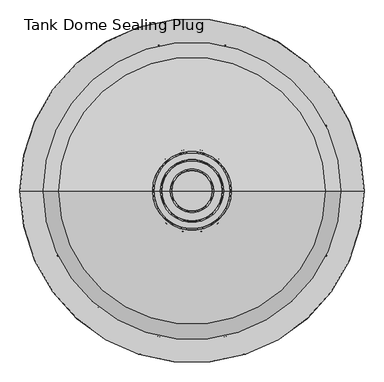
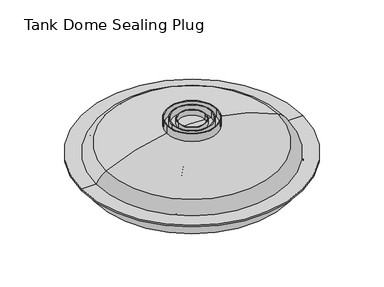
"""IFC4 building model written with IfcOpenShell, lengths in millimetres: proxy geometry, GRAF Tank Dome Sealing Plug : Tank Dome Sealing Plug."""

from ifc_helpers import new_model, si_unit, point, frame, frame_2d, origin, place, context, project, spatial, polyline, circle_curve, ellipse_curve, trimmed, segment, composite_curve, outline, extrude, source, transform, mapped, element, save
from ifc_brep_helpers import plane_surface, cylinder_surface, revolved_surface, advanced_brep


def tank_dome_sealing_plug_fa8a0619(model_context):
    return source(origin(), model_context, "Body", "SolidModel", [
        advanced_brep(
        [(-338.9176734, 0.0, 46.8927615), (338.9176734, 0.0, 46.8927615), (376.9999999, 0.0, 6.0), (-376.9999999, 0.0, 6.0), (-99.9999999, 0.0, 120.3659107), (99.9999999, 0.0, 120.3659107), (-99.8343627, 0.0, 152.0), (99.8343627, 0.0, 152.0), (-96.5430594, 0.0, 152.0), (96.5430594, 0.0, 152.0), (-95.9999999, 0.0, 120.8881408), (95.9999999, 0.0, 120.8881408), (-79.9999999, 0.0, 122.7609182), (79.9999999, 0.0, 122.7609182), (-79.8573751, 0.0, 150.0), (79.8573751, 0.0, 150.0), (-76.4682272, 0.0, 150.0), (76.4682272, 0.0, 150.0), (-75.9999999, 0.0, 123.1752784), (75.9999999, 0.0, 123.1752784), (-54.9999999, 0.0, 124.9993377), (54.9999999, 0.0, 124.9993377), (-54.8874217, 0.0, 146.5), (54.8874217, 0.0, 146.5), (-51.370395, 0.0, 146.5), (51.370395, 0.0, 146.5), (-50.9999999, 0.0, 125.2800805), (50.9999999, 0.0, 125.2800805), (0.0, 0.0, 127.0), (-55.0003781, 0.0, 117.9805869), (55.0003781, 0.0, 117.9805869), (0.0, 0.0, 120.0), (-55.1629057, 0.0, 87.8968666), (55.1629057, 0.0, 87.8968666), (-59.4752574, 0.0, 87.5336687), (59.4752574, 0.0, 87.5336687), (-59.9999999, 0.0, 117.5961477), (59.9999999, 0.0, 117.5961477), (-81.0018879, 0.0, 115.6129654), (81.0018879, 0.0, 115.6129654), (-81.5296726, 0.0, 85.376202), (81.5296726, 0.0, 85.376202), (-84.4736771, 0.0, 85.0147504), (84.4736771, 0.0, 85.0147504), (-84.9999999, 0.0, 115.1677663), (84.9999999, 0.0, 115.1677663), (-101.0023658, 0.0, 113.1678963), (101.0023658, 0.0, 113.1678963), (-101.5324671, 0.0, 82.7984116), (101.5324671, 0.0, 82.7984116), (-104.4726416, 0.0, 82.4012904), (104.4726416, 0.0, 82.4012904), (-104.9999999, 0.0, 112.6136277), (104.9999999, 0.0, 112.6136277), (-335.7836923, 0.0, 40.6335154), (335.7836923, 0.0, 40.6335154), (-371.8160826, 0.0, 0.0), (371.8160826, 0.0, 0.0), (-378.9999999, 0.0, 0.0), (378.9999999, 0.0, 0.0), (-379.6807032, 0.0, -65.0), (379.6807032, 0.0, -65.0), (-383.4327535, 0.0, -65.0), (383.4327535, 0.0, -65.0), (-383.9999999, 0.0, 0.0), (383.9999999, 0.0, 0.0), (-435.9999999, 0.0, 0.0), (435.9999999, 0.0, 0.0), (-435.4750679, 0.0, 6.0), (435.4750679, 0.0, 6.0)],
        [
            (0, 1, circle_curve(frame((0.0, 0.0, 46.8927615), z_axis=(0.0, 0.0, -1.0), x_axis=(1.0, 0.0, 0.0)), 338.9176734)),
            (1, 2, circle_curve(frame((303.1007462, 0.0, -24.6414801), z_axis=(0.0, 1.0, 0.0), x_axis=(1.0, 0.0, 0.0)), 80.0)),
            (2, 3, circle_curve(frame((0.0, 0.0, 6.0), z_axis=(0.0, 0.0, 1.0), x_axis=(1.0, 0.0, 0.0)), 376.9999999)),
            (3, 0, circle_curve(frame((-303.1007462, 0.0, -24.6414801), z_axis=(0.0, 1.0, 0.0), x_axis=(-1.0, 0.0, 0.0)), 80.0)),
            (1, 0, circle_curve(frame((0.0, 0.0, 46.8927615), z_axis=(0.0, 0.0, -1.0), x_axis=(1.0, 0.0, 0.0)), 338.9176734)),
            (3, 2, circle_curve(frame((0.0, 0.0, 6.0), z_axis=(0.0, 0.0, 1.0), x_axis=(1.0, 0.0, 0.0)), 376.9999999)),
            (4, 5, circle_curve(frame((0.0, 0.0, 120.3659107), z_axis=(0.0, 0.0, -1.0), x_axis=(1.0, 0.0, 0.0)), 99.9999999)),
            (5, 1, circle_curve(frame((-1e-07, 0.0, -630.0), z_axis=(0.0, 1.0, 0.0), x_axis=(1.0, 0.0, 0.0)), 757.0)),
            (0, 4, circle_curve(frame((1e-07, 0.0, -630.0), z_axis=(0.0, 1.0, 0.0), x_axis=(-1.0, 0.0, 0.0)), 757.0)),
            (5, 4, circle_curve(frame((0.0, 0.0, 120.3659107), z_axis=(0.0, 0.0, -1.0), x_axis=(1.0, 0.0, 0.0)), 99.9999999)),
            (6, 7, circle_curve(frame((0.0, 0.0, 152.0), z_axis=(0.0, 0.0, -1.0), x_axis=(1.0, 0.0, 0.0)), 99.8343627)),
            (7, 5),
            (4, 6),
            (7, 6, circle_curve(frame((0.0, 0.0, 152.0), z_axis=(0.0, 0.0, -1.0), x_axis=(1.0, 0.0, 0.0)), 99.8343627)),
            (8, 9, circle_curve(frame((0.0, 0.0, 152.0), z_axis=(0.0, 0.0, -1.0), x_axis=(1.0, 0.0, 0.0)), 96.5430594)),
            (9, 7),
            (6, 8),
            (9, 8, circle_curve(frame((0.0, 0.0, 152.0), z_axis=(0.0, 0.0, -1.0), x_axis=(1.0, 0.0, 0.0)), 96.5430594)),
            (10, 11, circle_curve(frame((0.0, 0.0, 120.8881408), z_axis=(0.0, 0.0, -1.0), x_axis=(1.0, 0.0, 0.0)), 95.9999999)),
            (11, 9),
            (8, 10),
            (11, 10, circle_curve(frame((0.0, 0.0, 120.8881408), z_axis=(0.0, 0.0, -1.0), x_axis=(1.0, 0.0, 0.0)), 95.9999999)),
            (12, 13, circle_curve(frame((0.0, 0.0, 122.7609182), z_axis=(0.0, 0.0, -1.0), x_axis=(1.0, 0.0, 0.0)), 79.9999999)),
            (13, 11, circle_curve(frame((-1e-07, 0.0, -630.0), z_axis=(0.0, 1.0, 0.0), x_axis=(1.0, 0.0, 0.0)), 757.0)),
            (10, 12, circle_curve(frame((1e-07, 0.0, -630.0), z_axis=(0.0, 1.0, 0.0), x_axis=(-1.0, 0.0, 0.0)), 757.0)),
            (13, 12, circle_curve(frame((0.0, 0.0, 122.7609182), z_axis=(0.0, 0.0, -1.0), x_axis=(1.0, 0.0, 0.0)), 79.9999999)),
            (14, 15, circle_curve(frame((0.0, 0.0, 150.0), z_axis=(0.0, 0.0, -1.0), x_axis=(1.0, 0.0, 0.0)), 79.8573751)),
            (15, 13),
            (12, 14),
            (15, 14, circle_curve(frame((0.0, 0.0, 150.0), z_axis=(0.0, 0.0, -1.0), x_axis=(1.0, 0.0, 0.0)), 79.8573751)),
            (16, 17, circle_curve(frame((0.0, 0.0, 150.0), z_axis=(0.0, 0.0, -1.0), x_axis=(1.0, 0.0, 0.0)), 76.4682272)),
            (17, 15),
            (14, 16),
            (17, 16, circle_curve(frame((0.0, 0.0, 150.0), z_axis=(0.0, 0.0, -1.0), x_axis=(1.0, 0.0, 0.0)), 76.4682272)),
            (18, 19, circle_curve(frame((0.0, 0.0, 123.1752784), z_axis=(0.0, 0.0, -1.0), x_axis=(1.0, 0.0, 0.0)), 75.9999999)),
            (19, 17),
            (16, 18),
            (19, 18, circle_curve(frame((0.0, 0.0, 123.1752784), z_axis=(0.0, 0.0, -1.0), x_axis=(1.0, 0.0, 0.0)), 75.9999999)),
            (20, 21, circle_curve(frame((0.0, 0.0, 124.9993377), z_axis=(0.0, 0.0, -1.0), x_axis=(1.0, 0.0, 0.0)), 54.9999999)),
            (21, 19, circle_curve(frame((-1e-07, 0.0, -630.0), z_axis=(0.0, 1.0, 0.0), x_axis=(1.0, 0.0, 0.0)), 757.0)),
            (18, 20, circle_curve(frame((1e-07, 0.0, -630.0), z_axis=(0.0, 1.0, 0.0), x_axis=(-1.0, 0.0, 0.0)), 757.0)),
            (21, 20, circle_curve(frame((0.0, 0.0, 124.9993377), z_axis=(0.0, 0.0, -1.0), x_axis=(1.0, 0.0, 0.0)), 54.9999999)),
            (22, 23, circle_curve(frame((0.0, 0.0, 146.5), z_axis=(0.0, 0.0, -1.0), x_axis=(1.0, 0.0, 0.0)), 54.8874217)),
            (23, 21),
            (20, 22),
            (23, 22, circle_curve(frame((0.0, 0.0, 146.5), z_axis=(0.0, 0.0, -1.0), x_axis=(1.0, 0.0, 0.0)), 54.8874217)),
            (24, 25, circle_curve(frame((0.0, 0.0, 146.5), z_axis=(0.0, 0.0, -1.0), x_axis=(1.0, 0.0, 0.0)), 51.370395)),
            (25, 23),
            (22, 24),
            (25, 24, circle_curve(frame((0.0, 0.0, 146.5), z_axis=(0.0, 0.0, -1.0), x_axis=(1.0, 0.0, 0.0)), 51.370395)),
            (26, 27, circle_curve(frame((0.0, 0.0, 125.2800805), z_axis=(0.0, 0.0, -1.0), x_axis=(1.0, 0.0, 0.0)), 50.9999999)),
            (27, 25),
            (24, 26),
            (27, 26, circle_curve(frame((0.0, 0.0, 125.2800805), z_axis=(0.0, 0.0, -1.0), x_axis=(1.0, 0.0, 0.0)), 50.9999999)),
            (28, 27, circle_curve(frame((-1e-07, 0.0, -630.0), z_axis=(0.0, 1.0, 0.0), x_axis=(1.0, 0.0, 0.0)), 757.0)),
            (26, 28, circle_curve(frame((1e-07, 0.0, -630.0), z_axis=(0.0, 1.0, 0.0), x_axis=(-1.0, 0.0, 0.0)), 757.0)),
            (29, 30, circle_curve(frame((0.0, 0.0, 117.9805869), z_axis=(0.0, 0.0, -1.0), x_axis=(1.0, 0.0, 0.0)), 55.0003781)),
            (30, 31, circle_curve(frame((-1e-07, 0.0, -630.0), z_axis=(0.0, -1.0, 0.0), x_axis=(1.0, 0.0, 0.0)), 750.0)),
            (31, 29, circle_curve(frame((1e-07, 0.0, -630.0), z_axis=(0.0, -1.0, 0.0), x_axis=(-1.0, 0.0, 0.0)), 750.0)),
            (30, 29, circle_curve(frame((0.0, 0.0, 117.9805869), z_axis=(0.0, 0.0, -1.0), x_axis=(1.0, 0.0, 0.0)), 55.0003781)),
            (32, 33, circle_curve(frame((0.0, 0.0, 87.8968666), z_axis=(0.0, 0.0, -1.0), x_axis=(1.0, 0.0, 0.0)), 55.1629057)),
            (33, 30),
            (29, 32),
            (33, 32, circle_curve(frame((0.0, 0.0, 87.8968666), z_axis=(0.0, 0.0, -1.0), x_axis=(1.0, 0.0, 0.0)), 55.1629057)),
            (34, 35, circle_curve(frame((0.0, 0.0, 87.5336687), z_axis=(0.0, 0.0, -1.0), x_axis=(1.0, 0.0, 0.0)), 59.4752574)),
            (35, 33),
            (32, 34),
            (35, 34, circle_curve(frame((0.0, 0.0, 87.5336687), z_axis=(0.0, 0.0, -1.0), x_axis=(1.0, 0.0, 0.0)), 59.4752574)),
            (36, 37, circle_curve(frame((0.0, 0.0, 117.5961477), z_axis=(0.0, 0.0, -1.0), x_axis=(1.0, 0.0, 0.0)), 59.9999999)),
            (37, 35),
            (34, 36),
            (37, 36, circle_curve(frame((0.0, 0.0, 117.5961477), z_axis=(0.0, 0.0, -1.0), x_axis=(1.0, 0.0, 0.0)), 59.9999999)),
            (38, 39, circle_curve(frame((0.0, 0.0, 115.6129654), z_axis=(0.0, 0.0, -1.0), x_axis=(1.0, 0.0, 0.0)), 81.0018879)),
            (39, 37, circle_curve(frame((-1e-07, 0.0, -630.0), z_axis=(0.0, -1.0, 0.0), x_axis=(1.0, 0.0, 0.0)), 750.0)),
            (36, 38, circle_curve(frame((1e-07, 0.0, -630.0), z_axis=(0.0, -1.0, 0.0), x_axis=(-1.0, 0.0, 0.0)), 750.0)),
            (39, 38, circle_curve(frame((0.0, 0.0, 115.6129654), z_axis=(0.0, 0.0, -1.0), x_axis=(1.0, 0.0, 0.0)), 81.0018879)),
            (40, 41, circle_curve(frame((0.0, 0.0, 85.376202), z_axis=(0.0, 0.0, -1.0), x_axis=(1.0, 0.0, 0.0)), 81.5296726)),
            (41, 39),
            (38, 40),
            (41, 40, circle_curve(frame((0.0, 0.0, 85.376202), z_axis=(0.0, 0.0, -1.0), x_axis=(1.0, 0.0, 0.0)), 81.5296726)),
            (42, 43, circle_curve(frame((0.0, 0.0, 85.0147504), z_axis=(0.0, 0.0, -1.0), x_axis=(1.0, 0.0, 0.0)), 84.4736771)),
            (43, 41),
            (40, 42),
            (43, 42, circle_curve(frame((0.0, 0.0, 85.0147504), z_axis=(0.0, 0.0, -1.0), x_axis=(1.0, 0.0, 0.0)), 84.4736771)),
            (44, 45, circle_curve(frame((0.0, 0.0, 115.1677663), z_axis=(0.0, 0.0, -1.0), x_axis=(1.0, 0.0, 0.0)), 84.9999999)),
            (45, 43),
            (42, 44),
            (45, 44, circle_curve(frame((0.0, 0.0, 115.1677663), z_axis=(0.0, 0.0, -1.0), x_axis=(1.0, 0.0, 0.0)), 84.9999999)),
            (46, 47, circle_curve(frame((0.0, 0.0, 113.1678963), z_axis=(0.0, 0.0, -1.0), x_axis=(1.0, 0.0, 0.0)), 101.0023658)),
            (47, 45, circle_curve(frame((-1e-07, 0.0, -630.0), z_axis=(0.0, -1.0, 0.0), x_axis=(1.0, 0.0, 0.0)), 750.0)),
            (44, 46, circle_curve(frame((1e-07, 0.0, -630.0), z_axis=(0.0, -1.0, 0.0), x_axis=(-1.0, 0.0, 0.0)), 750.0)),
            (47, 46, circle_curve(frame((0.0, 0.0, 113.1678963), z_axis=(0.0, 0.0, -1.0), x_axis=(1.0, 0.0, 0.0)), 101.0023658)),
            (48, 49, circle_curve(frame((0.0, 0.0, 82.7984116), z_axis=(0.0, 0.0, -1.0), x_axis=(1.0, 0.0, 0.0)), 101.5324671)),
            (49, 47),
            (46, 48),
            (49, 48, circle_curve(frame((0.0, 0.0, 82.7984116), z_axis=(0.0, 0.0, -1.0), x_axis=(1.0, 0.0, 0.0)), 101.5324671)),
            (50, 51, circle_curve(frame((0.0, 0.0, 82.4012904), z_axis=(0.0, 0.0, -1.0), x_axis=(1.0, 0.0, 0.0)), 104.4726416)),
            (51, 49),
            (48, 50),
            (51, 50, circle_curve(frame((0.0, 0.0, 82.4012904), z_axis=(0.0, 0.0, -1.0), x_axis=(1.0, 0.0, 0.0)), 104.4726416)),
            (52, 53, circle_curve(frame((0.0, 0.0, 112.6136277), z_axis=(0.0, 0.0, -1.0), x_axis=(1.0, 0.0, 0.0)), 104.9999999)),
            (53, 51),
            (50, 52),
            (53, 52, circle_curve(frame((0.0, 0.0, 112.6136277), z_axis=(0.0, 0.0, -1.0), x_axis=(1.0, 0.0, 0.0)), 104.9999999)),
            (54, 55, circle_curve(frame((0.0, 0.0, 40.6335154), z_axis=(0.0, 0.0, -1.0), x_axis=(1.0, 0.0, 0.0)), 335.7836923)),
            (55, 53, circle_curve(frame((-1e-07, 0.0, -630.0), z_axis=(0.0, -1.0, 0.0), x_axis=(1.0, 0.0, 0.0)), 750.0)),
            (52, 54, circle_curve(frame((1e-07, 0.0, -630.0), z_axis=(0.0, -1.0, 0.0), x_axis=(-1.0, 0.0, 0.0)), 750.0)),
            (55, 54, circle_curve(frame((0.0, 0.0, 40.6335154), z_axis=(0.0, 0.0, -1.0), x_axis=(1.0, 0.0, 0.0)), 335.7836923)),
            (56, 57, circle_curve(frame((0.0, 0.0, 0.0), z_axis=(0.0, 0.0, -1.0), x_axis=(1.0, 0.0, 0.0)), 371.8160826)),
            (57, 55, circle_curve(frame((303.1007462, 0.0, -24.6414801), z_axis=(0.0, -1.0, 0.0), x_axis=(1.0, 0.0, 0.0)), 73.0)),
            (54, 56, circle_curve(frame((-303.1007462, 0.0, -24.6414801), z_axis=(0.0, -1.0, 0.0), x_axis=(-1.0, 0.0, 0.0)), 73.0)),
            (57, 56, circle_curve(frame((0.0, 0.0, 0.0), z_axis=(0.0, 0.0, -1.0), x_axis=(1.0, 0.0, 0.0)), 371.8160826)),
            (58, 59, circle_curve(frame((0.0, 0.0, 0.0), z_axis=(0.0, 0.0, -1.0), x_axis=(1.0, 0.0, 0.0)), 378.9999999)),
            (59, 57),
            (56, 58),
            (59, 58, circle_curve(frame((0.0, 0.0, 0.0), z_axis=(0.0, 0.0, -1.0), x_axis=(1.0, 0.0, 0.0)), 378.9999999)),
            (60, 61, circle_curve(frame((0.0, 0.0, -65.0), z_axis=(0.0, 0.0, -1.0), x_axis=(1.0, 0.0, 0.0)), 379.6807032)),
            (61, 59),
            (58, 60),
            (61, 60, circle_curve(frame((0.0, 0.0, -65.0), z_axis=(0.0, 0.0, -1.0), x_axis=(1.0, 0.0, 0.0)), 379.6807032)),
            (62, 63, circle_curve(frame((0.0, 0.0, -65.0), z_axis=(0.0, 0.0, -1.0), x_axis=(1.0, 0.0, 0.0)), 383.4327535)),
            (63, 61),
            (60, 62),
            (63, 62, circle_curve(frame((0.0, 0.0, -65.0), z_axis=(0.0, 0.0, -1.0), x_axis=(1.0, 0.0, 0.0)), 383.4327535)),
            (64, 65, circle_curve(frame((0.0, 0.0, 0.0), z_axis=(0.0, 0.0, -1.0), x_axis=(1.0, 0.0, 0.0)), 383.9999999)),
            (65, 63),
            (62, 64),
            (65, 64, circle_curve(frame((0.0, 0.0, 0.0), z_axis=(0.0, 0.0, -1.0), x_axis=(1.0, 0.0, 0.0)), 383.9999999)),
            (66, 67, circle_curve(frame((0.0, 0.0, 0.0), z_axis=(0.0, 0.0, -1.0), x_axis=(1.0, 0.0, 0.0)), 435.9999999)),
            (67, 65),
            (64, 66),
            (67, 66, circle_curve(frame((0.0, 0.0, 0.0), z_axis=(0.0, 0.0, -1.0), x_axis=(1.0, 0.0, 0.0)), 435.9999999)),
            (68, 69, circle_curve(frame((0.0, 0.0, 6.0), z_axis=(0.0, 0.0, -1.0), x_axis=(1.0, 0.0, 0.0)), 435.4750679)),
            (69, 67),
            (66, 68),
            (69, 68, circle_curve(frame((0.0, 0.0, 6.0), z_axis=(0.0, 0.0, -1.0), x_axis=(1.0, 0.0, 0.0)), 435.4750679)),
            (2, 69),
            (68, 3),
        ],
        [
            revolved_surface(trimmed(ellipse_curve(frame((303.1007462, 0.0, -24.6414801), z_axis=(0.0, -1.0, 0.0), x_axis=(1.0, 0.0, 0.0)), 80.0, 80.0), [point((376.9999999, 0.0, 6.0))], [point((338.9176734, 0.0, 46.8927615))], True, "CARTESIAN"), (0.0, 0.0, 484.2490449), (0.0, 0.0, 1.0)),
            revolved_surface(trimmed(ellipse_curve(frame((-1e-07, 0.0, -630.0), z_axis=(0.0, -1.0, 0.0), x_axis=(1.0, 0.0, 0.0)), 757.0, 757.0), [point((338.9176734, 0.0, 46.8927615))], [point((99.9999999, 0.0, 120.3659107))], True, "CARTESIAN"), (0.0, 0.0, 484.2490449), (0.0, 0.0, 1.0)),
            revolved_surface(polyline([(99.9999999, 0.0, 120.3659107), (99.8343627, 0.0, 152.0)]), (0.0, 0.0, 484.2490449), (0.0, 0.0, 1.0)),
            plane_surface(frame((0.0, 0.0, 152.0), z_axis=(0.0, 0.0, 1.0), x_axis=(1.0, 0.0, 0.0))),
            revolved_surface(polyline([(96.5430594, 0.0, 152.0), (95.9999999, 0.0, 120.8881408)]), (0.0, 0.0, 484.2490449), (0.0, 0.0, 1.0)),
            revolved_surface(trimmed(ellipse_curve(frame((-1e-07, 0.0, -630.0), z_axis=(0.0, -1.0, 0.0), x_axis=(1.0, 0.0, 0.0)), 757.0, 757.0), [point((95.9999999, 0.0, 120.8881408))], [point((79.9999999, 0.0, 122.7609182))], True, "CARTESIAN"), (0.0, 0.0, 484.2490449), (0.0, 0.0, 1.0)),
            revolved_surface(polyline([(79.9999999, 0.0, 122.7609182), (79.8573751, 0.0, 150.0)]), (0.0, 0.0, 484.2490449), (0.0, 0.0, 1.0)),
            plane_surface(frame((0.0, 0.0, 150.0), z_axis=(0.0, 0.0, 1.0), x_axis=(1.0, 0.0, 0.0))),
            revolved_surface(polyline([(76.4682272, 0.0, 150.0), (75.9999999, 0.0, 123.1752784)]), (0.0, 0.0, 484.2490449), (0.0, 0.0, 1.0)),
            revolved_surface(trimmed(ellipse_curve(frame((-1e-07, 0.0, -630.0), z_axis=(0.0, -1.0, 0.0), x_axis=(1.0, 0.0, 0.0)), 757.0, 757.0), [point((75.9999999, 0.0, 123.1752784))], [point((54.9999999, 0.0, 124.9993377))], True, "CARTESIAN"), (0.0, 0.0, 484.2490449), (0.0, 0.0, 1.0)),
            revolved_surface(polyline([(54.9999999, 0.0, 124.9993377), (54.8874217, 0.0, 146.5)]), (0.0, 0.0, 484.2490449), (0.0, 0.0, 1.0)),
            plane_surface(frame((0.0, 0.0, 146.5), z_axis=(0.0, 0.0, 1.0), x_axis=(1.0, 0.0, 0.0))),
            revolved_surface(polyline([(51.370395, 0.0, 146.5), (50.9999999, 0.0, 125.2800805)]), (0.0, 0.0, 484.2490449), (0.0, 0.0, 1.0)),
            revolved_surface(trimmed(ellipse_curve(frame((-1e-07, 0.0, -630.0), z_axis=(0.0, -1.0, 0.0), x_axis=(1.0, 0.0, 0.0)), 757.0, 757.0), [point((50.9999999, 0.0, 125.2800805))], [point((0.0, 0.0, 127.0))], True, "CARTESIAN"), (0.0, 0.0, 484.2490449), (0.0, 0.0, 1.0)),
            revolved_surface(trimmed(ellipse_curve(frame((-1e-07, 0.0, -630.0), z_axis=(0.0, 1.0, 0.0), x_axis=(1.0, 0.0, 0.0)), 750.0, 750.0), [point((0.0, 0.0, 120.0))], [point((55.0003781, 0.0, 117.9805869))], True, "CARTESIAN"), (0.0, 0.0, 484.2490449), (0.0, 0.0, 1.0)),
            revolved_surface(polyline([(55.0003781, 0.0, 117.9805869), (55.1629057, 0.0, 87.8968666)]), (0.0, 0.0, 484.2490449), (0.0, 0.0, 1.0)),
            revolved_surface(polyline([(55.1629057, 0.0, 87.8968666), (59.4752574, 0.0, 87.5336687)]), (0.0, 0.0, 484.2490449), (0.0, 0.0, 1.0)),
            revolved_surface(polyline([(59.4752574, 0.0, 87.5336687), (59.9999999, 0.0, 117.5961477)]), (0.0, 0.0, 484.2490449), (0.0, 0.0, 1.0)),
            revolved_surface(trimmed(ellipse_curve(frame((-1e-07, 0.0, -630.0), z_axis=(0.0, 1.0, 0.0), x_axis=(1.0, 0.0, 0.0)), 750.0, 750.0), [point((59.9999999, 0.0, 117.5961477))], [point((81.0018879, 0.0, 115.6129654))], True, "CARTESIAN"), (0.0, 0.0, 484.2490449), (0.0, 0.0, 1.0)),
            revolved_surface(polyline([(81.0018879, 0.0, 115.6129654), (81.5296726, 0.0, 85.376202)]), (0.0, 0.0, 484.2490449), (0.0, 0.0, 1.0)),
            revolved_surface(polyline([(81.5296726, 0.0, 85.376202), (84.4736771, 0.0, 85.0147504)]), (0.0, 0.0, 484.2490449), (0.0, 0.0, 1.0)),
            revolved_surface(polyline([(84.4736771, 0.0, 85.0147504), (84.9999999, 0.0, 115.1677663)]), (0.0, 0.0, 484.2490449), (0.0, 0.0, 1.0)),
            revolved_surface(trimmed(ellipse_curve(frame((-1e-07, 0.0, -630.0), z_axis=(0.0, 1.0, 0.0), x_axis=(1.0, 0.0, 0.0)), 750.0, 750.0), [point((84.9999999, 0.0, 115.1677663))], [point((101.0023658, 0.0, 113.1678963))], True, "CARTESIAN"), (0.0, 0.0, 484.2490449), (0.0, 0.0, 1.0)),
            revolved_surface(polyline([(101.0023658, 0.0, 113.1678963), (101.5324671, 0.0, 82.7984116)]), (0.0, 0.0, 484.2490449), (0.0, 0.0, 1.0)),
            revolved_surface(polyline([(101.5324671, 0.0, 82.7984116), (104.4726416, 0.0, 82.4012904)]), (0.0, 0.0, 484.2490449), (0.0, 0.0, 1.0)),
            revolved_surface(polyline([(104.4726416, 0.0, 82.4012904), (104.9999999, 0.0, 112.6136277)]), (0.0, 0.0, 484.2490449), (0.0, 0.0, 1.0)),
            revolved_surface(trimmed(ellipse_curve(frame((-1e-07, 0.0, -630.0), z_axis=(0.0, 1.0, 0.0), x_axis=(1.0, 0.0, 0.0)), 750.0, 750.0), [point((104.9999999, 0.0, 112.6136277))], [point((335.7836923, 0.0, 40.6335154))], True, "CARTESIAN"), (0.0, 0.0, 484.2490449), (0.0, 0.0, 1.0)),
            revolved_surface(trimmed(ellipse_curve(frame((303.1007462, 0.0, -24.6414801), z_axis=(0.0, 1.0, 0.0), x_axis=(1.0, 0.0, 0.0)), 73.0, 73.0), [point((335.7836923, 0.0, 40.6335154))], [point((371.8160826, 0.0, 0.0))], True, "CARTESIAN"), (0.0, 0.0, 484.2490449), (0.0, 0.0, 1.0)),
            plane_surface(frame((0.0, 0.0, 0.0), z_axis=(0.0, 0.0, -1.0), x_axis=(1.0, 0.0, 0.0))),
            revolved_surface(polyline([(378.9999999, 0.0, 0.0), (379.6807032, 0.0, -65.0)]), (0.0, 0.0, 484.2490449), (0.0, 0.0, 1.0)),
            plane_surface(frame((0.0, 0.0, -65.0), z_axis=(0.0, 0.0, -1.0), x_axis=(1.0, 0.0, 0.0))),
            revolved_surface(polyline([(383.4327535, 0.0, -65.0), (383.9999999, 0.0, 0.0)]), (0.0, 0.0, 484.2490449), (0.0, 0.0, 1.0)),
            revolved_surface(polyline([(435.9999999, 0.0, 0.0), (435.4750679, 0.0, 6.0)]), (0.0, 0.0, 484.2490449), (0.0, 0.0, 1.0)),
            plane_surface(frame((0.0, 0.0, 6.0), z_axis=(0.0, 0.0, 1.0), x_axis=(1.0, 0.0, 0.0))),
        ],
        [
            (0, [[1, 2, 3, 4]]),
            (0, [[5, -4, 6, -2]]),
            (1, [[7, 8, -1, 9]]),
            (1, [[10, -9, -5, -8]]),
            (2, [[11, 12, -7, 13]]),
            (2, [[14, -13, -10, -12]]),
            (3, [[15, 16, -11, 17]]),
            (3, [[18, -17, -14, -16]]),
            (4, [[19, 20, -15, 21]]),
            (4, [[22, -21, -18, -20]]),
            (5, [[23, 24, -19, 25]]),
            (5, [[26, -25, -22, -24]]),
            (6, [[27, 28, -23, 29]]),
            (6, [[30, -29, -26, -28]]),
            (7, [[31, 32, -27, 33]]),
            (7, [[34, -33, -30, -32]]),
            (8, [[35, 36, -31, 37]]),
            (8, [[38, -37, -34, -36]]),
            (9, [[39, 40, -35, 41]]),
            (9, [[42, -41, -38, -40]]),
            (10, [[43, 44, -39, 45]]),
            (10, [[46, -45, -42, -44]]),
            (11, [[47, 48, -43, 49]]),
            (11, [[50, -49, -46, -48]]),
            (12, [[51, 52, -47, 53]]),
            (12, [[54, -53, -50, -52]]),
            (13, [[55, -51, 56]]),
            (13, [[-56, -54, -55]]),
            (14, [[57, 58, 59]]),
            (14, [[60, -59, -58]]),
            (15, [[61, 62, -57, 63]]),
            (15, [[64, -63, -60, -62]]),
            (16, [[65, 66, -61, 67]]),
            (16, [[68, -67, -64, -66]]),
            (17, [[69, 70, -65, 71]]),
            (17, [[72, -71, -68, -70]]),
            (18, [[73, 74, -69, 75]]),
            (18, [[76, -75, -72, -74]]),
            (19, [[77, 78, -73, 79]]),
            (19, [[80, -79, -76, -78]]),
            (20, [[81, 82, -77, 83]]),
            (20, [[84, -83, -80, -82]]),
            (21, [[85, 86, -81, 87]]),
            (21, [[88, -87, -84, -86]]),
            (22, [[89, 90, -85, 91]]),
            (22, [[92, -91, -88, -90]]),
            (23, [[93, 94, -89, 95]]),
            (23, [[96, -95, -92, -94]]),
            (24, [[97, 98, -93, 99]]),
            (24, [[100, -99, -96, -98]]),
            (25, [[101, 102, -97, 103]]),
            (25, [[104, -103, -100, -102]]),
            (26, [[105, 106, -101, 107]]),
            (26, [[108, -107, -104, -106]]),
            (27, [[109, 110, -105, 111]]),
            (27, [[112, -111, -108, -110]]),
            (28, [[113, 114, -109, 115]]),
            (28, [[116, -115, -112, -114]]),
            (29, [[117, 118, -113, 119]]),
            (29, [[120, -119, -116, -118]]),
            (30, [[121, 122, -117, 123]]),
            (30, [[124, -123, -120, -122]]),
            (31, [[125, 126, -121, 127]]),
            (31, [[128, -127, -124, -126]]),
            (28, [[129, 130, -125, 131]]),
            (28, [[132, -131, -128, -130]]),
            (32, [[133, 134, -129, 135]]),
            (32, [[136, -135, -132, -134]]),
            (33, [[-3, 137, -133, 138]]),
            (33, [[-6, -138, -136, -137]]),
        ],
    ),
        extrude(outline(composite_curve([segment(trimmed(circle_curve(frame_2d((45.7832264, -54.4917563)), 54.4917565), [point((45.7832264, 1e-07))], [point((-3.359212, -30.946645))], True, "CARTESIAN"), True, "CONTINUOUS"), segment(polyline([(-3.359212, -30.946645), (-24.2143634, -74.4747039)]), True, "CONTINUOUS"), segment(trimmed(circle_curve(frame_2d((625.1050555, -385.5764431)), 720.0), [point((-24.2143634, -74.4747039))], [point((-86.1420694, -273.6500063))], True, "CARTESIAN"), True, "CONTINUOUS"), segment(polyline([(-86.1420694, -273.6500063), (-116.3683168, -272.8057108)]), True, "CONTINUOUS"), segment(trimmed(circle_curve(frame_2d((625.1050555, -385.5764432)), 750.0), [point((-116.3683168, -272.8057108))], [point((-41.9754342, -42.7884326))], False, "CARTESIAN"), True, "CONTINUOUS"), segment(trimmed(circle_curve(frame_2d((22.9537335, -76.1531323)), 73.0), [point((-41.9754342, -42.7884326))], [point((-0.9668234, -7.1835234))], False, "CARTESIAN"), True, "CONTINUOUS"), segment(polyline([(-0.9668234, -7.1835234), (-0.891595, 0.0), (45.7832264, 1e-07)]), True, "CONTINUOUS")], self_intersect=False)), frame((342.5606539, -162.1937257, -0.870452), z_axis=(-0.4338837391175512, -0.9009688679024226, 0.0), x_axis=(0.009434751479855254, -0.004543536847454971, -0.9999451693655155)), (0.0, 0.0, 1.0), 5.0),
        advanced_brep(
        [(234.653028, -298.2552789, -46.6511681), (234.3482857, -297.8731442, 0.0210941), (229.8691865, -292.2565315, 0.0210941), (207.4033586, -264.0852743, 40.6546094), (63.51208, -83.651318, 112.6347217), (63.1830479, -83.2387248, 82.4012904), (187.7643378, -239.4587211, 22.5627007), (215.0383149, -273.6592067, 2.1645092), (238.5621854, -295.1378299, -46.6511681), (218.9474723, -270.5417577, 2.1645092), (191.6734952, -236.3412721, 22.5627007), (67.0922053, -80.1212758, 82.4012904), (67.4212374, -80.5338689, 112.6347217), (211.312516, -260.9678253, 40.6546094), (233.778344, -289.1390824, 0.0210941), (238.2574431, -294.7556951, 0.0210941)],
        [
            (0, 1),
            (1, 2),
            (2, 3, circle_curve(frame((187.0258751, -238.5327181, -24.6203861), z_axis=(-0.7818314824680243, -0.6234898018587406, 0.0), x_axis=(0.6234898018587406, -0.7818314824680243, 0.0)), 73.0)),
            (3, 4, circle_curve(frame((-1.9543492, -1.5590123, -629.9789059), z_axis=(-0.7818314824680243, -0.6234898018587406, 0.0), x_axis=(0.6234898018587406, -0.7818314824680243, 0.0)), 750.0)),
            (4, 5),
            (5, 6, circle_curve(frame((-1.9543491, -1.5590124, -629.9789059), z_axis=(0.7818314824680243, 0.6234898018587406, 0.0), x_axis=(-0.6234898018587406, 0.7818314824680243, 0.0)), 720.0)),
            (6, 7),
            (7, 0, circle_curve(frame((200.6798365, -255.6542442, -47.221794), z_axis=(0.7818314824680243, 0.6234898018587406, 0.0), x_axis=(-0.6234898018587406, 0.7818314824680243, 0.0)), 54.4917565)),
            (8, 9, circle_curve(frame((204.5889939, -252.5367952, -47.221794), z_axis=(-0.7818314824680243, -0.6234898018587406, 0.0), x_axis=(-0.6234898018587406, 0.7818314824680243, 0.0)), 54.4917565)),
            (9, 10),
            (10, 11, circle_curve(frame((1.9548083, 1.5584366, -629.9789059), z_axis=(-0.7818314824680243, -0.6234898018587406, 0.0), x_axis=(-0.6234898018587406, 0.7818314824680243, 0.0)), 720.0)),
            (11, 12),
            (12, 13, circle_curve(frame((1.9548082, 1.5584367, -629.9789059), z_axis=(0.7818314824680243, 0.6234898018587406, 0.0), x_axis=(0.6234898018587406, -0.7818314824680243, 0.0)), 750.0)),
            (13, 14, circle_curve(frame((190.9350325, -235.4152691, -24.6203861), z_axis=(0.7818314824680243, 0.6234898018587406, 0.0), x_axis=(0.6234898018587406, -0.7818314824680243, 0.0)), 73.0)),
            (14, 15),
            (15, 8),
            (7, 9),
            (8, 0),
            (6, 10),
            (5, 11),
            (4, 12),
            (3, 13),
            (2, 14),
            (1, 15),
        ],
        [
            plane_surface(frame((234.354107, -297.8804438, -0.870452), z_axis=(-0.7818314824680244, -0.6234898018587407, 0.0), x_axis=(-0.006529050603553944, 0.008187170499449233, 0.9999451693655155))),
            plane_surface(frame((238.2632644, -294.7629948, -0.870452), z_axis=(0.7818314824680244, 0.6234898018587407, 0.0), x_axis=(0.006529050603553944, -0.008187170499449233, -0.9999451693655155))),
            revolved_surface(polyline([(170.61393943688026, -209.9334244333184, -47.221794), (166.7047819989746, -213.05087346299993, -47.221794)]), (204.5889939, -252.5367952, -47.221794), (0.7818314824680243, 0.6234898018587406, 0.0)),
            plane_surface(frame((187.7643378, -239.4587211, 22.5627007), z_axis=(-0.2634981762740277, 0.33041626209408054, -0.9063077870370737), x_axis=(0.7818314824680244, 0.6234898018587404, 0.0))),
            revolved_surface(polyline([(-446.9578490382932, 564.4771039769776, -629.9789059), (-450.867006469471, 561.3596549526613, -629.9789059)]), (1.9548083, 1.5584366, -629.9789059), (0.7818314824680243, 0.6234898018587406, 0.0)),
            plane_surface(frame((63.51208, -83.651318, 112.6347217), z_axis=(-0.6233948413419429, 0.7817124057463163, 0.01745240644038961), x_axis=(0.7818314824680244, 0.6234898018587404, 0.0))),
            cylinder_surface(frame((1.9548082, 1.5584367, -629.9789059), z_axis=(-0.7818314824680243, -0.6234898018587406, 0.0), x_axis=(0.6234898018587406, -0.7818314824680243, 0.0)), 750.0),
            cylinder_surface(frame((190.9350325, -235.4152691, -24.6203861), z_axis=(-0.7818314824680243, -0.6234898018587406, 0.0), x_axis=(0.6234898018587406, -0.7818314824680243, 0.0)), 73.0),
            plane_surface(frame((234.3482857, -297.8731442, 0.0210941), z_axis=(0.0, 0.0, 1.0), x_axis=(0.7818314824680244, 0.6234898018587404, 0.0))),
            plane_surface(frame((234.653028, -298.2552789, -46.6511681), z_axis=(0.6234556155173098, -0.7817886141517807, 0.010471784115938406), x_axis=(0.7818314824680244, 0.6234898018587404, 0.0))),
        ],
        [
            (0, [[1, 2, 3, 4, 5, 6, 7, 8]]),
            (1, [[9, 10, 11, 12, 13, 14, 15, 16]]),
            (2, [[-8, 17, -9, 18]]),
            (3, [[-7, 19, -10, -17]]),
            (4, [[-6, 20, -11, -19]]),
            (5, [[-5, 21, -12, -20]]),
            (6, [[-4, 22, -13, -21]]),
            (7, [[-3, 23, -14, -22]]),
            (8, [[-2, 24, -15, -23]]),
            (9, [[-1, -18, -16, -24]]),
        ],
    ),
        extrude(outline(composite_curve([segment(trimmed(circle_curve(frame_2d((45.7832264, -54.4917564)), 54.4917565), [point((45.7832264, 1e-07))], [point((-3.359212, -30.946645))], True, "CARTESIAN"), True, "CONTINUOUS"), segment(polyline([(-3.359212, -30.946645), (-24.2143634, -74.474704)]), True, "CONTINUOUS"), segment(trimmed(circle_curve(frame_2d((625.1050555, -385.5764432)), 720.0), [point((-24.2143634, -74.474704))], [point((-86.1420694, -273.6500064))], True, "CARTESIAN"), True, "CONTINUOUS"), segment(polyline([(-86.1420694, -273.6500064), (-116.3683168, -272.8057108)]), True, "CONTINUOUS"), segment(trimmed(circle_curve(frame_2d((625.1050555, -385.5764432)), 750.0), [point((-116.3683168, -272.8057108))], [point((-41.9754342, -42.7884327))], False, "CARTESIAN"), True, "CONTINUOUS"), segment(trimmed(circle_curve(frame_2d((22.9537335, -76.1531324)), 73.0), [point((-41.9754342, -42.7884327))], [point((-0.9668234, -7.1835234))], False, "CARTESIAN"), True, "CONTINUOUS"), segment(polyline([(-0.9668234, -7.1835234), (-0.891595, 0.0), (45.7832264, 1e-07)]), True, "CONTINUOUS")], self_intersect=False)), frame((86.7749132, -368.9508378, -0.870452), z_axis=(-0.9749279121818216, -0.22252093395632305, 0.0), x_axis=(0.0023301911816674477, -0.010209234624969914, -0.9999451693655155)), (0.0, 0.0, 1.0), 5.0),
        extrude(outline(composite_curve([segment(trimmed(circle_curve(frame_2d((45.7832264, -54.4917563)), 54.4917565), [point((45.7832264, 1e-07))], [point((-3.359212, -30.946645))], True, "CARTESIAN"), True, "CONTINUOUS"), segment(polyline([(-3.359212, -30.946645), (-24.2143634, -74.4747039)]), True, "CONTINUOUS"), segment(trimmed(circle_curve(frame_2d((625.1050555, -385.5764431)), 720.0), [point((-24.2143634, -74.4747039))], [point((-86.1420694, -273.6500063))], True, "CARTESIAN"), True, "CONTINUOUS"), segment(polyline([(-86.1420694, -273.6500063), (-116.3683168, -272.8057108)]), True, "CONTINUOUS"), segment(trimmed(circle_curve(frame_2d((625.1050555, -385.5764432)), 750.0), [point((-116.3683168, -272.8057108))], [point((-41.9754342, -42.7884326))], False, "CARTESIAN"), True, "CONTINUOUS"), segment(trimmed(circle_curve(frame_2d((22.9537335, -76.1531323)), 73.0), [point((-41.9754342, -42.7884326))], [point((-0.9668234, -7.1835234))], False, "CARTESIAN"), True, "CONTINUOUS"), segment(polyline([(-0.9668234, -7.1835234), (-0.891595, 0.0), (45.7832264, 1e-07)]), True, "CONTINUOUS")], self_intersect=False)), frame((-81.9002737, -370.0634424, -0.870452), z_axis=(-0.9749279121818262, 0.2225209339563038, 0.0), x_axis=(-0.0023301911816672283, -0.010209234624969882, -0.9999451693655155)), (0.0, 0.0, 1.0), 5.0),
        extrude(outline(composite_curve([segment(trimmed(circle_curve(frame_2d((45.7832264, -54.4917564)), 54.4917565), [point((45.7832264, 0.0))], [point((-3.359212, -30.946645))], True, "CARTESIAN"), True, "CONTINUOUS"), segment(polyline([(-3.359212, -30.946645), (-24.2143634, -74.4747039)]), True, "CONTINUOUS"), segment(trimmed(circle_curve(frame_2d((625.1050555, -385.5764431)), 720.0), [point((-24.2143634, -74.4747039))], [point((-86.1420694, -273.6500063))], True, "CARTESIAN"), True, "CONTINUOUS"), segment(polyline([(-86.1420694, -273.6500063), (-116.3683168, -272.8057108)]), True, "CONTINUOUS"), segment(trimmed(circle_curve(frame_2d((625.1050555, -385.5764432)), 750.0), [point((-116.3683168, -272.8057108))], [point((-41.9754342, -42.7884327))], False, "CARTESIAN"), True, "CONTINUOUS"), segment(trimmed(circle_curve(frame_2d((22.9537335, -76.1531324)), 73.0), [point((-41.9754342, -42.7884327))], [point((-0.9668234, -7.1835234))], False, "CARTESIAN"), True, "CONTINUOUS"), segment(polyline([(-0.9668234, -7.1835234), (-0.891595, 0.0), (45.7832264, 0.0)]), True, "CONTINUOUS")], self_intersect=False)), frame((-234.354107, -297.8804438, -0.870452), z_axis=(-0.7818314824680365, 0.6234898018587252, 0.0), x_axis=(-0.006529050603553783, -0.008187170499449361, -0.9999451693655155)), (0.0, 0.0, 1.0), 5.0),
        advanced_brep(
        [(-342.9926073, -162.4017434, -46.6511681), (-342.5522419, -162.1896747, 0.0210941), (-336.0797561, -159.0726898, 0.0210941), (-303.6156942, -143.4388215, 40.6546094), (-95.6867721, -43.3055302, 112.6347217), (-95.211307, -43.0765582, 82.4012904), (-275.2364868, -129.7721156, 22.5627007), (-314.6485257, -148.7519531, 2.1645092), (-340.8231887, -166.9065878, -46.6511681), (-312.479107, -153.2567975, 2.1645092), (-273.0670681, -134.2769599, 22.5627007), (-93.0418883, -47.5814025, 82.4012904), (-93.5173534, -47.8103745, 112.6347217), (-301.4462755, -147.9436659, 40.6546094), (-333.9103374, -163.5775341, 0.0210941), (-340.3828232, -166.694519, 0.0210941)],
        [
            (0, 1),
            (1, 2),
            (2, 3, circle_curve(frame((-274.1693773, -129.2582227, -24.6203861), z_axis=(-0.4338837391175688, 0.900968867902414, 0.0), x_axis=(-0.900968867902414, -0.4338837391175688, 0.0)), 73.0)),
            (3, 4, circle_curve(frame((-1.085041, 2.2522625, -629.9789059), z_axis=(-0.4338837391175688, 0.900968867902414, 0.0), x_axis=(-0.900968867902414, -0.4338837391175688, 0.0)), 750.0)),
            (4, 5),
            (5, 6, circle_curve(frame((-1.0850411, 2.2522624, -629.9789059), z_axis=(0.4338837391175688, -0.900968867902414, 0.0), x_axis=(0.900968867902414, 0.4338837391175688, 0.0)), 720.0)),
            (6, 7),
            (7, 0, circle_curve(frame((-293.8999232, -138.7599528, -47.221794), z_axis=(0.4338837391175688, -0.900968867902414, 0.0), x_axis=(0.900968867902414, 0.4338837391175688, 0.0)), 54.4917565)),
            (8, 9, circle_curve(frame((-291.7305045, -143.2647971, -47.221794), z_axis=(-0.4338837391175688, 0.900968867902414, 0.0), x_axis=(0.900968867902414, 0.4338837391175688, 0.0)), 54.4917565)),
            (9, 10),
            (10, 11, circle_curve(frame((1.0843776, -2.2525819, -629.9789059), z_axis=(-0.4338837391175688, 0.900968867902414, 0.0), x_axis=(0.900968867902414, 0.4338837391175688, 0.0)), 720.0)),
            (11, 12),
            (12, 13, circle_curve(frame((1.0843777, -2.2525819, -629.9789059), z_axis=(0.4338837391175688, -0.900968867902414, 0.0), x_axis=(-0.900968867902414, -0.4338837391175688, 0.0)), 750.0)),
            (13, 14, circle_curve(frame((-271.9999586, -133.763067, -24.6203861), z_axis=(0.4338837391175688, -0.900968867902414, 0.0), x_axis=(-0.900968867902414, -0.4338837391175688, 0.0)), 73.0)),
            (14, 15),
            (15, 8),
            (7, 9),
            (8, 0),
            (6, 10),
            (5, 11),
            (4, 12),
            (3, 13),
            (2, 14),
            (1, 15),
        ],
        [
            plane_surface(frame((-342.5606539, -162.1937257, -0.870452), z_axis=(-0.43388373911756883, 0.9009688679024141, 0.0), x_axis=(0.009434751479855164, 0.004543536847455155, 0.9999451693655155))),
            plane_surface(frame((-340.3912352, -166.69857, -0.870452), z_axis=(0.43388373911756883, -0.9009688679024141, 0.0), x_axis=(-0.009434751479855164, -0.004543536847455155, -0.9999451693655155))),
            revolved_surface(polyline([(-242.6351283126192, -119.62171008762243, -47.221794), (-244.80454703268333, -115.11686569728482, -47.221794)]), (-291.7305045, -143.2647971, -47.221794), (0.4338837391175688, -0.900968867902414, 0.0)),
            plane_surface(frame((-275.2364868, -129.7721156, 22.5627007), z_axis=(0.38076589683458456, 0.18336719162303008, -0.9063077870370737), x_axis=(0.433883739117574, -0.9009688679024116, 0.0))),
            revolved_surface(polyline([(649.7819625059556, 310.14371023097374, -629.9789059), (647.6125438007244, 314.64855459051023, -629.9789059)]), (1.0843776, -2.2525819, -629.9789059), (0.4338837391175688, -0.900968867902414, 0.0)),
            plane_surface(frame((-95.6867721, -43.3055302, 112.6347217), z_axis=(0.9008316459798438, 0.4338176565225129, 0.017452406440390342), x_axis=(0.4338837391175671, -0.9009688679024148, 0.0))),
            cylinder_surface(frame((1.0843777, -2.2525819, -629.9789059), z_axis=(-0.4338837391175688, 0.900968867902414, 0.0), x_axis=(-0.900968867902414, -0.4338837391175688, 0.0)), 750.0),
            cylinder_surface(frame((-271.9999586, -133.763067, -24.6203861), z_axis=(-0.4338837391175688, 0.900968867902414, 0.0), x_axis=(-0.900968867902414, -0.4338837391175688, 0.0)), 73.0),
            plane_surface(frame((-342.5522419, -162.1896747, 0.0210941), z_axis=(0.0, 0.0, 1.0), x_axis=(0.4338837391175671, -0.9009688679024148, 0.0))),
            plane_surface(frame((-342.9926073, -162.4017434, -46.6511681), z_axis=(-0.900919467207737, -0.43385994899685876, 0.010471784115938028), x_axis=(0.4338837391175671, -0.9009688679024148, 0.0))),
        ],
        [
            (0, [[1, 2, 3, 4, 5, 6, 7, 8]]),
            (1, [[9, 10, 11, 12, 13, 14, 15, 16]]),
            (2, [[-8, 17, -9, 18]]),
            (3, [[-7, 19, -10, -17]]),
            (4, [[-6, 20, -11, -19]]),
            (5, [[-5, 21, -12, -20]]),
            (6, [[-4, 22, -13, -21]]),
            (7, [[-3, 23, -14, -22]]),
            (8, [[-2, 24, -15, -23]]),
            (9, [[-1, -18, -16, -24]]),
        ],
    ),
        advanced_brep(
        [(340.8231887, 166.9065878, -46.6511681), (312.479107, 153.2567975, 2.1645092), (273.0670681, 134.2769599, 22.5627007), (93.0418883, 47.5814025, 82.4012904), (93.5173534, 47.8103745, 112.6347217), (301.4462755, 147.9436659, 40.6546094), (333.9103374, 163.5775341, 0.0210941), (340.3828232, 166.694519, 0.0210941), (342.9926073, 162.4017434, -46.6511681), (342.5522419, 162.1896747, 0.0210941), (336.0797561, 159.0726898, 0.0210941), (303.6156942, 143.4388215, 40.6546094), (95.6867721, 43.3055302, 112.6347217), (95.211307, 43.0765582, 82.4012904), (275.2364868, 129.7721156, 22.5627007), (314.6485257, 148.7519531, 2.1645092)],
        [
            (0, 1, circle_curve(frame((291.7305045, 143.2647971, -47.221794), z_axis=(0.4338837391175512, -0.9009688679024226, 0.0), x_axis=(-0.9009688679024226, -0.4338837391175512, 0.0)), 54.4917565)),
            (1, 2),
            (2, 3, circle_curve(frame((-1.0843776, 2.2525819, -629.9789059), z_axis=(0.4338837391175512, -0.9009688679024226, 0.0), x_axis=(-0.9009688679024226, -0.4338837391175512, 0.0)), 720.0)),
            (3, 4),
            (4, 5, circle_curve(frame((-1.0843777, 2.2525819, -629.9789059), z_axis=(-0.4338837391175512, 0.9009688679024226, 0.0), x_axis=(0.9009688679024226, 0.4338837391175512, 0.0)), 750.0)),
            (5, 6, circle_curve(frame((271.9999586, 133.763067, -24.6203861), z_axis=(-0.4338837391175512, 0.9009688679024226, 0.0), x_axis=(0.9009688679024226, 0.4338837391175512, 0.0)), 73.0)),
            (6, 7),
            (7, 0),
            (8, 9),
            (9, 10),
            (10, 11, circle_curve(frame((274.1693773, 129.2582227, -24.6203861), z_axis=(0.4338837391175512, -0.9009688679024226, 0.0), x_axis=(0.9009688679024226, 0.4338837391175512, 0.0)), 73.0)),
            (11, 12, circle_curve(frame((1.085041, -2.2522625, -629.9789059), z_axis=(0.4338837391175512, -0.9009688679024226, 0.0), x_axis=(0.9009688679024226, 0.4338837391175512, 0.0)), 750.0)),
            (12, 13),
            (13, 14, circle_curve(frame((1.0850411, -2.2522624, -629.9789059), z_axis=(-0.4338837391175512, 0.9009688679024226, 0.0), x_axis=(-0.9009688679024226, -0.4338837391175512, 0.0)), 720.0)),
            (14, 15),
            (15, 8, circle_curve(frame((293.8999232, 138.7599528, -47.221794), z_axis=(-0.4338837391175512, 0.9009688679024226, 0.0), x_axis=(-0.9009688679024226, -0.4338837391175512, 0.0)), 54.4917565)),
            (0, 8),
            (15, 1),
            (14, 2),
            (13, 3),
            (12, 4),
            (11, 5),
            (10, 6),
            (9, 7),
        ],
        [
            plane_surface(frame((242.6351283, 119.6217101, -47.221794), z_axis=(-0.4338837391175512, 0.9009688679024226, 0.0), x_axis=(0.0, 0.0, -1.0))),
            plane_surface(frame((244.804547, 115.1168657, -47.221794), z_axis=(0.4338837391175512, -0.9009688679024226, 0.0), x_axis=(0.0, 0.0, 1.0))),
            revolved_surface(polyline([(244.80454705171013, 115.11686570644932, -47.221794), (242.63512833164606, 119.62171009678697, -47.221794)]), (293.8999232, 138.7599528, -47.221794), (0.4338837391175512, -0.9009688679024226, 0.0)),
            plane_surface(frame((312.479107, 153.2567975, 2.1645092), z_axis=(-0.3807658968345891, -0.18336719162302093, -0.9063077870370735), x_axis=(0.4338837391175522, -0.900968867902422, 0.0))),
            revolved_surface(polyline([(-647.612543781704, -314.6485545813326, -629.9789059), (-649.7819624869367, -310.14371022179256, -629.9789059)]), (1.0850411, -2.2522624, -629.9789059), (0.4338837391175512, -0.9009688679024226, 0.0)),
            plane_surface(frame((93.0418883, 47.5814025, 82.4012904), z_axis=(-0.9008316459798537, -0.4338176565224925, 0.017452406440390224), x_axis=(0.4338837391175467, -0.9009688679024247, 0.0))),
            cylinder_surface(frame((1.085041, -2.2522625, -629.9789059), z_axis=(-0.4338837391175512, 0.9009688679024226, 0.0), x_axis=(0.9009688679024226, 0.4338837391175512, 0.0)), 750.0),
            cylinder_surface(frame((274.1693773, 129.2582227, -24.6203861), z_axis=(-0.4338837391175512, 0.9009688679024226, 0.0), x_axis=(0.9009688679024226, 0.4338837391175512, 0.0)), 73.0),
            plane_surface(frame((333.9103374, 163.5775341, 0.0210941), z_axis=(0.0, 0.0, 1.0), x_axis=(0.4338837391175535, -0.9009688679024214, 0.0))),
            plane_surface(frame((340.3828232, 166.694519, 0.0210941), z_axis=(0.9009194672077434, 0.43385994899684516, 0.010471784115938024), x_axis=(0.4338837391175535, -0.9009688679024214, 0.0))),
        ],
        [
            (0, [[1, 2, 3, 4, 5, 6, 7, 8]]),
            (1, [[9, 10, 11, 12, 13, 14, 15, 16]]),
            (2, [[-1, 17, -16, 18]]),
            (3, [[-2, -18, -15, 19]]),
            (4, [[-3, -19, -14, 20]]),
            (5, [[-4, -20, -13, 21]]),
            (6, [[-5, -21, -12, 22]]),
            (7, [[-6, -22, -11, 23]]),
            (8, [[-7, -23, -10, 24]]),
            (9, [[-8, -24, -9, -17]]),
        ],
    ),
        advanced_brep(
        [(234.653028, 298.2552789, -46.6511681), (215.0383149, 273.6592067, 2.1645092), (187.7643378, 239.4587211, 22.5627007), (63.1830479, 83.2387248, 82.4012904), (63.51208, 83.651318, 112.6347217), (207.4033586, 264.0852743, 40.6546094), (229.8691865, 292.2565315, 0.0210941), (234.3482857, 297.8731442, 0.0210941), (238.5621854, 295.1378299, -46.6511681), (238.2574431, 294.7556951, 0.0210941), (233.778344, 289.1390824, 0.0210941), (211.312516, 260.9678253, 40.6546094), (67.4212374, 80.5338689, 112.6347217), (67.0922053, 80.1212758, 82.4012904), (191.6734952, 236.3412721, 22.5627007), (218.9474723, 270.5417577, 2.1645092)],
        [
            (0, 1, circle_curve(frame((200.6798365, 255.6542442, -47.221794), z_axis=(0.7818314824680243, -0.6234898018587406, 0.0), x_axis=(-0.6234898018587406, -0.7818314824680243, 0.0)), 54.4917565)),
            (1, 2),
            (2, 3, circle_curve(frame((-1.9543491, 1.5590124, -629.9789059), z_axis=(0.7818314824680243, -0.6234898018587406, 0.0), x_axis=(-0.6234898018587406, -0.7818314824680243, 0.0)), 720.0)),
            (3, 4),
            (4, 5, circle_curve(frame((-1.9543492, 1.5590123, -629.9789059), z_axis=(-0.7818314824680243, 0.6234898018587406, 0.0), x_axis=(0.6234898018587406, 0.7818314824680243, 0.0)), 750.0)),
            (5, 6, circle_curve(frame((187.0258751, 238.5327181, -24.6203861), z_axis=(-0.7818314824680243, 0.6234898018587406, 0.0), x_axis=(0.6234898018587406, 0.7818314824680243, 0.0)), 73.0)),
            (6, 7),
            (7, 0),
            (8, 9),
            (9, 10),
            (10, 11, circle_curve(frame((190.9350325, 235.4152691, -24.6203861), z_axis=(0.7818314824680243, -0.6234898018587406, 0.0), x_axis=(0.6234898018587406, 0.7818314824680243, 0.0)), 73.0)),
            (11, 12, circle_curve(frame((1.9548082, -1.5584367, -629.9789059), z_axis=(0.7818314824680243, -0.6234898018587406, 0.0), x_axis=(0.6234898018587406, 0.7818314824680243, 0.0)), 750.0)),
            (12, 13),
            (13, 14, circle_curve(frame((1.9548083, -1.5584366, -629.9789059), z_axis=(-0.7818314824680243, 0.6234898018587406, 0.0), x_axis=(-0.6234898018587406, -0.7818314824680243, 0.0)), 720.0)),
            (14, 15),
            (15, 8, circle_curve(frame((204.5889939, 252.5367952, -47.221794), z_axis=(-0.7818314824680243, 0.6234898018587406, 0.0), x_axis=(-0.6234898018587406, -0.7818314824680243, 0.0)), 54.4917565)),
            (0, 8),
            (15, 1),
            (14, 2),
            (13, 3),
            (12, 4),
            (11, 5),
            (10, 6),
            (9, 7),
        ],
        [
            plane_surface(frame((166.704782, 213.0508734, -47.221794), z_axis=(-0.7818314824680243, 0.6234898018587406, 0.0), x_axis=(0.0, 0.0, -1.0))),
            plane_surface(frame((170.6139394, 209.9334244, -47.221794), z_axis=(0.7818314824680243, -0.6234898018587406, 0.0), x_axis=(0.0, 0.0, 1.0))),
            revolved_surface(polyline([(170.61393943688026, 209.9334244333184, -47.221794), (166.7047819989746, 213.05087346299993, -47.221794)]), (204.5889939, 252.5367952, -47.221794), (0.7818314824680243, -0.6234898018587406, 0.0)),
            plane_surface(frame((215.0383149, 273.6592067, 2.1645092), z_axis=(-0.2634981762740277, -0.33041626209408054, -0.9063077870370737), x_axis=(0.7818314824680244, -0.6234898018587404, 0.0))),
            revolved_surface(polyline([(-446.9578490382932, -564.4771039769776, -629.9789059), (-450.867006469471, -561.3596549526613, -629.9789059)]), (1.9548083, -1.5584366, -629.9789059), (0.7818314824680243, -0.6234898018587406, 0.0)),
            plane_surface(frame((63.1830479, 83.2387248, 82.4012904), z_axis=(-0.6233948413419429, -0.7817124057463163, 0.01745240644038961), x_axis=(0.7818314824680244, -0.6234898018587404, 0.0))),
            cylinder_surface(frame((1.9548082, -1.5584367, -629.9789059), z_axis=(-0.7818314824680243, 0.6234898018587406, 0.0), x_axis=(0.6234898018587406, 0.7818314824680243, 0.0)), 750.0),
            cylinder_surface(frame((190.9350325, 235.4152691, -24.6203861), z_axis=(-0.7818314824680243, 0.6234898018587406, 0.0), x_axis=(0.6234898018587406, 0.7818314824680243, 0.0)), 73.0),
            plane_surface(frame((229.8691865, 292.2565315, 0.0210941), z_axis=(0.0, 0.0, 1.0), x_axis=(0.7818314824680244, -0.6234898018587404, 0.0))),
            plane_surface(frame((234.3482857, 297.8731442, 0.0210941), z_axis=(0.6234556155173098, 0.7817886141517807, 0.010471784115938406), x_axis=(0.7818314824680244, -0.6234898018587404, 0.0))),
        ],
        [
            (0, [[1, 2, 3, 4, 5, 6, 7, 8]]),
            (1, [[9, 10, 11, 12, 13, 14, 15, 16]]),
            (2, [[-1, 17, -16, 18]]),
            (3, [[-2, -18, -15, 19]]),
            (4, [[-3, -19, -14, 20]]),
            (5, [[-4, -20, -13, 21]]),
            (6, [[-5, -21, -12, 22]]),
            (7, [[-6, -22, -11, 23]]),
            (8, [[-7, -23, -10, 24]]),
            (9, [[-8, -24, -9, -17]]),
        ],
    ),
        extrude(outline(composite_curve([segment(trimmed(circle_curve(frame_2d((0.0, 54.4917565)), 54.4917565), [point((-0.5706259, 108.9805251))], [point((-49.3863032, 77.5209678))], True, "CARTESIAN"), True, "CONTINUOUS"), segment(polyline([(-49.3863032, 77.5209678), (-69.7844947, 33.7769049)]), True, "CONTINUOUS"), segment(trimmed(circle_curve(frame_2d((582.7571119, -270.5082435)), 720.0), [point((-69.7844947, 33.7769049))], [point((-129.6230844, -166.0359701))], True, "CARTESIAN"), True, "CONTINUOUS"), segment(polyline([(-129.6230844, -166.0359701), (-159.8565157, -165.5082436)]), True, "CONTINUOUS"), segment(trimmed(circle_curve(frame_2d((582.7571119, -270.5082436)), 750.0), [point((-159.8565157, -165.5082436))], [point((-87.8764034, 65.2754488))], False, "CARTESIAN"), True, "CONTINUOUS"), segment(trimmed(circle_curve(frame_2d((-22.6014079, 32.5925027)), 73.0), [point((-87.8764034, 65.2754488))], [point((-47.2428881, 101.307839))], False, "CARTESIAN"), True, "CONTINUOUS"), segment(polyline([(-47.2428881, 101.307839), (-47.2428881, 108.4917564), (-0.5706259, 108.9805251)]), True, "CONTINUOUS")], self_intersect=False)), frame((57.7565091, 264.2826984, -47.221794), z_axis=(0.9749279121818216, -0.22252093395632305, 0.0), x_axis=(0.0, 0.0, -1.0)), (0.0, 0.0, 1.0), 5.0),
        extrude(outline(composite_curve([segment(trimmed(circle_curve(frame_2d((0.0, 54.4917565)), 54.4917565), [point((-0.5706259, 108.9805252))], [point((-49.3863032, 77.5209679))], True, "CARTESIAN"), True, "CONTINUOUS"), segment(polyline([(-49.3863032, 77.5209679), (-69.7844947, 33.7769049)]), True, "CONTINUOUS"), segment(trimmed(circle_curve(frame_2d((582.7571119, -270.5082435)), 720.0), [point((-69.7844947, 33.7769049))], [point((-129.6230844, -166.0359701))], True, "CARTESIAN"), True, "CONTINUOUS"), segment(polyline([(-129.6230844, -166.0359701), (-159.8565157, -165.5082436)]), True, "CONTINUOUS"), segment(trimmed(circle_curve(frame_2d((582.7571119, -270.5082436)), 750.0), [point((-159.8565157, -165.5082436))], [point((-87.8764034, 65.2754488))], False, "CARTESIAN"), True, "CONTINUOUS"), segment(trimmed(circle_curve(frame_2d((-22.6014079, 32.5925027)), 73.0), [point((-87.8764034, 65.2754488))], [point((-47.2428881, 101.3078391))], False, "CARTESIAN"), True, "CONTINUOUS"), segment(polyline([(-47.2428881, 101.3078391), (-47.2428881, 108.4917565), (-0.5706259, 108.9805252)]), True, "CONTINUOUS")], self_intersect=False)), frame((-62.6311487, 263.1700937, -47.221794), z_axis=(0.9749279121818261, 0.2225209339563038, 0.0), x_axis=(0.0, 0.0, -1.0)), (0.0, 0.0, 1.0), 5.0),
        extrude(outline(composite_curve([segment(trimmed(circle_curve(frame_2d((0.0, 54.4917565)), 54.4917565), [point((-0.5706259, 108.9805251))], [point((-49.3863032, 77.5209679))], True, "CARTESIAN"), True, "CONTINUOUS"), segment(polyline([(-49.3863032, 77.5209679), (-69.7844947, 33.776905)]), True, "CONTINUOUS"), segment(trimmed(circle_curve(frame_2d((582.7571119, -270.5082434)), 720.0), [point((-69.7844947, 33.776905))], [point((-129.6230844, -166.0359701))], True, "CARTESIAN"), True, "CONTINUOUS"), segment(polyline([(-129.6230844, -166.0359701), (-159.8565157, -165.5082436)]), True, "CONTINUOUS"), segment(trimmed(circle_curve(frame_2d((582.7571119, -270.5082436)), 750.0), [point((-159.8565157, -165.5082436))], [point((-87.8764034, 65.2754488))], False, "CARTESIAN"), True, "CONTINUOUS"), segment(trimmed(circle_curve(frame_2d((-22.6014079, 32.5925027)), 73.0), [point((-87.8764034, 65.2754488))], [point((-47.2428881, 101.3078391))], False, "CARTESIAN"), True, "CONTINUOUS"), segment(polyline([(-47.2428881, 101.3078391), (-47.2428881, 108.4917564), (-0.5706259, 108.9805251)]), True, "CONTINUOUS")], self_intersect=False)), frame((-170.6139394, 209.9334244, -47.221794), z_axis=(0.7818314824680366, 0.6234898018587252, 0.0), x_axis=(0.0, 0.0, -1.0)), (0.0, 0.0, 1.0), 5.0),
    ])


if __name__ == "__main__":
    model = new_model("IFC4")
    model_context = context("Model", 3, world=origin())
    ifc_project = project(units=[si_unit("LENGTHUNIT", "METRE", prefix="MILLI")], contexts=[model_context])
    site = spatial("IfcSite", under=ifc_project)
    building = spatial("IfcBuilding", under=site)
    placement = place(None, origin())
    tank_dome_sealing_plug_shape = tank_dome_sealing_plug_fa8a0619(model_context)
    element("IfcBuildingElementProxy", 1, Name="GRAF Tank Dome Sealing Plug : Tank Dome Sealing Plug", ObjectType="GRAF Tank Dome Sealing Plug : Tank Dome Sealing Plug", at=placement, inside=building, context=model_context, shape_type="MappedRepresentation", body=[
        mapped(tank_dome_sealing_plug_shape, transform((0.0, 0.0, 0.0), x_axis=(1.0, 0.0, 0.0), y_axis=(0.0, 1.0, 0.0), z_axis=(0.0, 0.0, 1.0))),
    ])
    save(model, "model.ifc")
